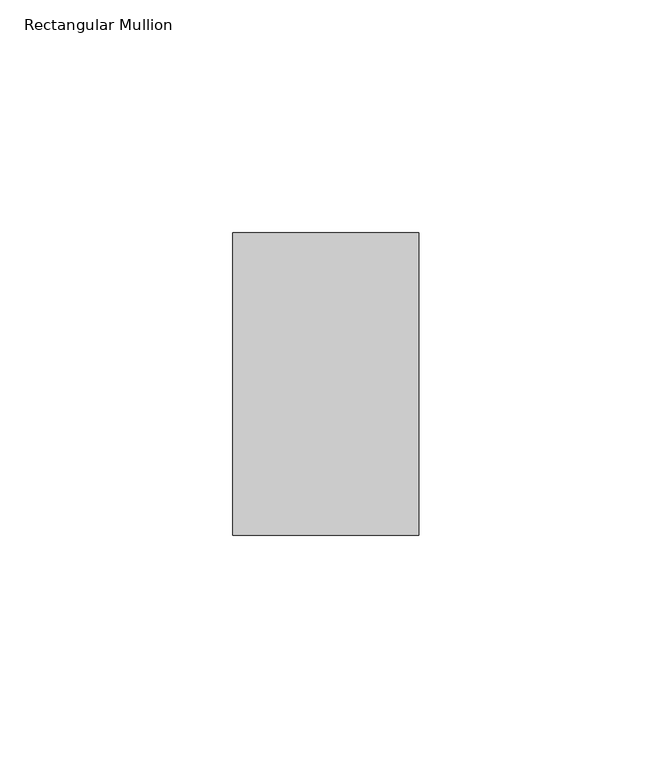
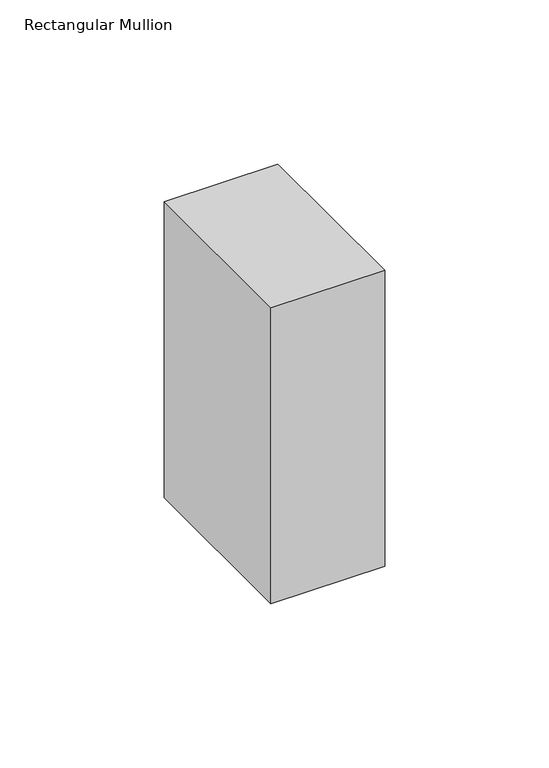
"""IFC4 building model written with IfcOpenShell, lengths in millimetres: member geometry, Rectangular Mullion : Batten_Timber_Modinex_Austratus_Grid_Fascia_40x65_Blackbutt."""

from ifc_helpers import new_model, si_unit, frame, origin, place, context, project, spatial, polyline, outline, extrude, source, transform, mapped, element, save


def rectangular_mullion_d93f5598(model_context):
    return source(origin(), model_context, "Body", "SweptSolid", [
        extrude(outline(polyline([(-20.0, 65.0), (20.0, 65.0), (20.0, 0.0), (-20.0, 0.0), (-20.0, 65.0)])), frame((0.0, 0.0, -110.0000003), z_axis=(0.0, 0.0, 1.0), x_axis=(1.0, 0.0, 0.0)), (0.0, 0.0, 1.0), 110.0000003),
    ])


if __name__ == "__main__":
    model = new_model("IFC4")
    model_context = context("Model", 3, world=origin())
    ifc_project = project(units=[si_unit("LENGTHUNIT", "METRE", prefix="MILLI")], contexts=[model_context])
    site = spatial("IfcSite", under=ifc_project)
    building = spatial("IfcBuilding", under=site)
    placement = place(None, origin())
    rectangular_mullion_shape = rectangular_mullion_d93f5598(model_context)
    element("IfcMember", 1, ObjectType="Rectangular Mullion : Batten_Timber_Modinex_Austratus_Grid_Fascia_40x65_Blackbutt", at=placement, inside=building, context=model_context, shape_type="MappedRepresentation", body=[
        mapped(rectangular_mullion_shape, transform((0.0, 0.0, 0.0), x_axis=(1.0, 0.0, 0.0), y_axis=(0.0, 1.0, 0.0), z_axis=(0.0, 0.0, 1.0))),
    ])
    save(model, "model.ifc")
